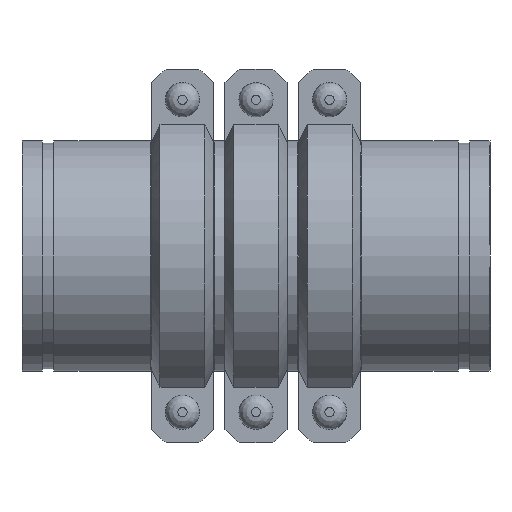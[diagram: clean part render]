
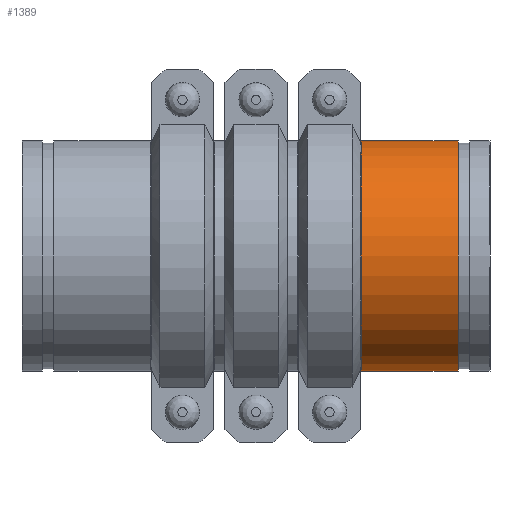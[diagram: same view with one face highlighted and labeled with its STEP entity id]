
A CAD part, front view. The second image highlights one B-rep face of the part: STEP entity #1389.
In plain terms, the highlighted cylindrical face has radius 109.537 mm (diameter 219.075 mm), a full revolution.
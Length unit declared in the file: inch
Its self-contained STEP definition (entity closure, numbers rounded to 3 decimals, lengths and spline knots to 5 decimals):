
#67=LINE('',#2211,#158);
#158=VECTOR('',#1782,4.3125);
#249=CYLINDRICAL_SURFACE('',#1574,4.3125);
#302=FACE_OUTER_BOUND('',#383,.T.);
#383=EDGE_LOOP('',(#916,#917,#918,#919,#920,#921));
#487=CIRCLE('',#1572,4.3125);
#488=CIRCLE('',#1573,4.3125);
#489=CIRCLE('',#1575,4.3125);
#490=CIRCLE('',#1576,4.3125);
#575=VERTEX_POINT('',#2202);
#576=VERTEX_POINT('',#2203);
#577=VERTEX_POINT('',#2207);
#578=VERTEX_POINT('',#2208);
#712=EDGE_CURVE('',#575,#576,#487,.T.);
#713=EDGE_CURVE('',#576,#575,#488,.T.);
#714=EDGE_CURVE('',#577,#578,#489,.T.);
#715=EDGE_CURVE('',#578,#577,#490,.T.);
#716=EDGE_CURVE('',#578,#576,#67,.T.);
#916=ORIENTED_EDGE('',*,*,#714,.F.);
#917=ORIENTED_EDGE('',*,*,#715,.F.);
#918=ORIENTED_EDGE('',*,*,#716,.T.);
#919=ORIENTED_EDGE('',*,*,#713,.T.);
#920=ORIENTED_EDGE('',*,*,#712,.T.);
#921=ORIENTED_EDGE('',*,*,#716,.F.);
#1389=ADVANCED_FACE('',(#302),#249,.T.);
#1572=AXIS2_PLACEMENT_3D('',#2204,#1772,#1773);
#1573=AXIS2_PLACEMENT_3D('',#2205,#1774,#1775);
#1574=AXIS2_PLACEMENT_3D('',#2206,#1776,#1777);
#1575=AXIS2_PLACEMENT_3D('',#2209,#1778,#1779);
#1576=AXIS2_PLACEMENT_3D('',#2210,#1780,#1781);
#1772=DIRECTION('center_axis',(-1.,0.,0.));
#1773=DIRECTION('ref_axis',(0.,0.,1.));
#1774=DIRECTION('center_axis',(-1.,0.,0.));
#1775=DIRECTION('ref_axis',(0.,0.,1.));
#1776=DIRECTION('center_axis',(-1.,0.,0.));
#1777=DIRECTION('ref_axis',(0.,1.,0.));
#1778=DIRECTION('center_axis',(-1.,0.,0.));
#1779=DIRECTION('ref_axis',(0.,0.,1.));
#1780=DIRECTION('center_axis',(-1.,0.,0.));
#1781=DIRECTION('ref_axis',(0.,0.,1.));
#1782=DIRECTION('',(1.,0.,0.));
#2202=CARTESIAN_POINT('',(1.812,4.3125,0.));
#2203=CARTESIAN_POINT('',(1.812,-4.3125,0.));
#2204=CARTESIAN_POINT('Origin',(1.812,0.,0.));
#2205=CARTESIAN_POINT('Origin',(1.812,0.,0.));
#2206=CARTESIAN_POINT('Origin',(0.,0.,
0.));
#2207=CARTESIAN_POINT('',(-1.812,4.3125,0.));
#2208=CARTESIAN_POINT('',(-1.812,-4.3125,0.));
#2209=CARTESIAN_POINT('Origin',(-1.812,0.,0.));
#2210=CARTESIAN_POINT('Origin',(-1.812,0.,0.));
#2211=CARTESIAN_POINT('',(0.,-4.3125,0.));
